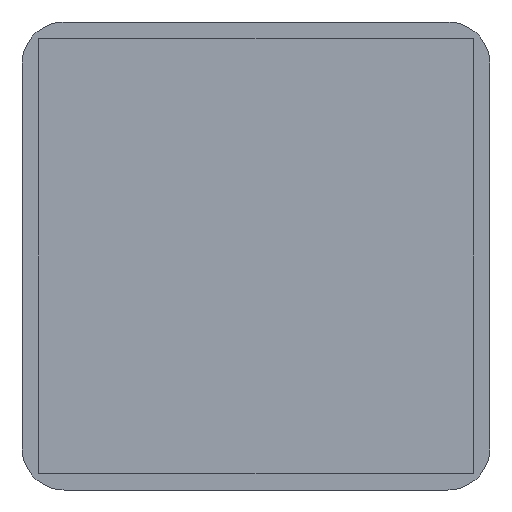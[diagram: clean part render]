
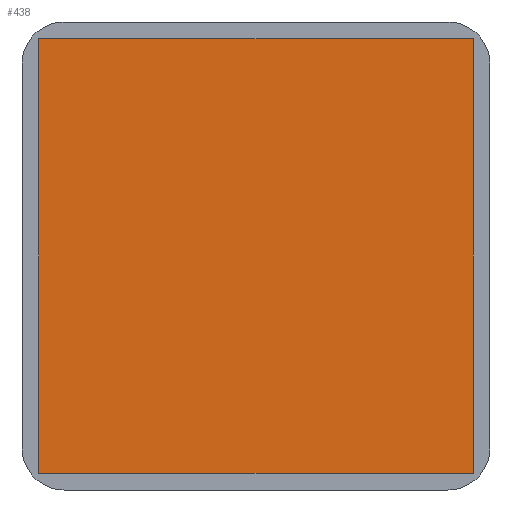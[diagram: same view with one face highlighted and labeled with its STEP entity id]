
A CAD part, front view. The second image highlights one B-rep face of the part: STEP entity #438.
In plain terms, the highlighted planar face has unit normal (0, -1, 0).
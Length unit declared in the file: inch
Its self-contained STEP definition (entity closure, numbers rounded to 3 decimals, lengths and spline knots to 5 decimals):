
#92 = VECTOR ( 'NONE', #906, 39.37008 ) ;
#239 = DIRECTION ( 'NONE',  ( 1., 0., 0. ) ) ;
#367 = CARTESIAN_POINT ( 'NONE',  ( 0.41339, -0.005, -0.41339 ) ) ;
#438 = ADVANCED_FACE ( 'NONE', ( #651 ), #2558, .F. ) ;
#513 = AXIS2_PLACEMENT_3D ( 'NONE', #1709, #636, #1443 ) ;
#514 = CARTESIAN_POINT ( 'NONE',  ( -0.41339, -0.005, 0.41339 ) ) ;
#629 = LINE ( 'NONE', #367, #92 ) ;
#636 = DIRECTION ( 'NONE',  ( 0., 1., 0. ) ) ;
#649 = ORIENTED_EDGE ( 'NONE', *, *, #3387, .F. ) ;
#651 = FACE_OUTER_BOUND ( 'NONE', #2270, .T. ) ;
#655 = CARTESIAN_POINT ( 'NONE',  ( -0.41339, -0.005, 0.41339 ) ) ;
#675 = VECTOR ( 'NONE', #2220, 39.37008 ) ;
#679 = ORIENTED_EDGE ( 'NONE', *, *, #2924, .F. ) ;
#896 = CARTESIAN_POINT ( 'NONE',  ( -0.41339, -0.005, -0.41339 ) ) ;
#906 = DIRECTION ( 'NONE',  ( 0., 0., -1. ) ) ;
#998 = CARTESIAN_POINT ( 'NONE',  ( 0.41339, -0.005, -0.41339 ) ) ;
#1014 = VERTEX_POINT ( 'NONE', #3379 ) ;
#1052 = VECTOR ( 'NONE', #239, 39.37008 ) ;
#1120 = LINE ( 'NONE', #2732, #1338 ) ;
#1140 = DIRECTION ( 'NONE',  ( -1., 0., 0. ) ) ;
#1208 = ORIENTED_EDGE ( 'NONE', *, *, #1425, .F. ) ;
#1338 = VECTOR ( 'NONE', #1140, 39.37008 ) ;
#1425 = EDGE_CURVE ( 'NONE', #1014, #1681, #629, .T. ) ;
#1443 = DIRECTION ( 'NONE',  ( 0., 0., 1. ) ) ;
#1445 = CARTESIAN_POINT ( 'NONE',  ( -0.41339, -0.005, -0.41339 ) ) ;
#1681 = VERTEX_POINT ( 'NONE', #998 ) ;
#1689 = LINE ( 'NONE', #1445, #675 ) ;
#1697 = EDGE_CURVE ( 'NONE', #1865, #1014, #1837, .T. ) ;
#1709 = CARTESIAN_POINT ( 'NONE',  ( -0.41339, -0.005, 0.41339 ) ) ;
#1837 = LINE ( 'NONE', #514, #1052 ) ;
#1865 = VERTEX_POINT ( 'NONE', #655 ) ;
#2220 = DIRECTION ( 'NONE',  ( 0., 0., 1. ) ) ;
#2270 = EDGE_LOOP ( 'NONE', ( #649, #679, #1208, #2713 ) ) ;
#2558 = PLANE ( 'NONE',  #513 ) ;
#2713 = ORIENTED_EDGE ( 'NONE', *, *, #1697, .F. ) ;
#2732 = CARTESIAN_POINT ( 'NONE',  ( -0.41339, -0.005, -0.41339 ) ) ;
#2924 = EDGE_CURVE ( 'NONE', #1681, #3418, #1120, .T. ) ;
#3379 = CARTESIAN_POINT ( 'NONE',  ( 0.41339, -0.005, 0.41339 ) ) ;
#3387 = EDGE_CURVE ( 'NONE', #3418, #1865, #1689, .T. ) ;
#3418 = VERTEX_POINT ( 'NONE', #896 ) ;
